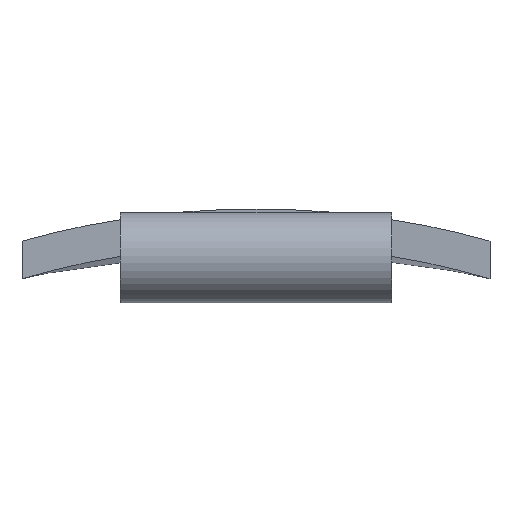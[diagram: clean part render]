
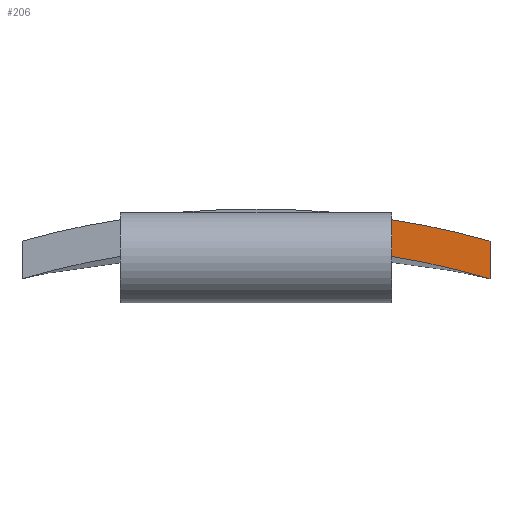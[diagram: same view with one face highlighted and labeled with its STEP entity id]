
A CAD part, top view. The second image highlights one B-rep face of the part: STEP entity #206.
In plain terms, the highlighted planar face has unit normal (0, 0, 1).
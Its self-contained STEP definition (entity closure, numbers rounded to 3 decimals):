
#21 = EDGE_CURVE('',#22,#24,#26,.T.);
#22 = VERTEX_POINT('',#23);
#23 = CARTESIAN_POINT('',(7.5,45.384,106.364));
#24 = VERTEX_POINT('',#25);
#25 = CARTESIAN_POINT('',(7.5,47.41,106.364));
#26 = SURFACE_CURVE('',#27,(#31,#43),.PCURVE_S1.);
#27 = LINE('',#28,#29);
#28 = CARTESIAN_POINT('',(7.5,38.,106.364));
#29 = VECTOR('',#30,1.);
#30 = DIRECTION('',(0.,1.,0.));
#31 = PCURVE('',#32,#37);
#32 = PLANE('',#33);
#33 = AXIS2_PLACEMENT_3D('',#34,#35,#36);
#34 = CARTESIAN_POINT('',(7.5,38.,106.364));
#35 = DIRECTION('',(-1.,0.,0.));
#36 = DIRECTION('',(0.,0.,1.));
#37 = DEFINITIONAL_REPRESENTATION('',(#38),#42);
#38 = LINE('',#39,#40);
#39 = CARTESIAN_POINT('',(0.,0.));
#40 = VECTOR('',#41,1.);
#41 = DIRECTION('',(0.,1.));
#42 = ( GEOMETRIC_REPRESENTATION_CONTEXT(2) 
PARAMETRIC_REPRESENTATION_CONTEXT() REPRESENTATION_CONTEXT('2D SPACE',''
  ) );
#43 = PCURVE('',#44,#49);
#44 = PLANE('',#45);
#45 = AXIS2_PLACEMENT_3D('',#46,#47,#48);
#46 = CARTESIAN_POINT('',(17.5,38.,106.364));
#47 = DIRECTION('',(0.,0.,1.));
#48 = DIRECTION('',(0.,1.,0.));
#49 = DEFINITIONAL_REPRESENTATION('',(#50),#54);
#50 = LINE('',#51,#52);
#51 = CARTESIAN_POINT('',(0.,10.));
#52 = VECTOR('',#53,1.);
#53 = DIRECTION('',(1.,0.));
#54 = ( GEOMETRIC_REPRESENTATION_CONTEXT(2) 
PARAMETRIC_REPRESENTATION_CONTEXT() REPRESENTATION_CONTEXT('2D SPACE',''
  ) );
#72 = CYLINDRICAL_SURFACE('',#73,46.);
#73 = AXIS2_PLACEMENT_3D('',#74,#75,#76);
#74 = CARTESIAN_POINT('',(0.,0.,
    -4.946));
#75 = DIRECTION('',(0.,-0.,-1.));
#76 = DIRECTION('',(0.,1.,0.));
#164 = CYLINDRICAL_SURFACE('',#165,48.);
#165 = AXIS2_PLACEMENT_3D('',#166,#167,#168);
#166 = CARTESIAN_POINT('',(0.,0.,-4.946));
#167 = DIRECTION('',(0.,-0.,-1.));
#168 = DIRECTION('',(0.,1.,0.));
#206 = ADVANCED_FACE('',(#207),#44,.T.);
#207 = FACE_BOUND('',#208,.T.);
#208 = EDGE_LOOP('',(#209,#210,#238,#266));
#209 = ORIENTED_EDGE('',*,*,#21,.F.);
#210 = ORIENTED_EDGE('',*,*,#211,.T.);
#211 = EDGE_CURVE('',#22,#212,#214,.T.);
#212 = VERTEX_POINT('',#213);
#213 = CARTESIAN_POINT('',(12.924,44.147,
    106.364));
#214 = SURFACE_CURVE('',#215,(#220,#231),.PCURVE_S1.);
#215 = CIRCLE('',#216,46.);
#216 = AXIS2_PLACEMENT_3D('',#217,#218,#219);
#217 = CARTESIAN_POINT('',(0.,0.,
    106.364));
#218 = DIRECTION('',(0.,0.,-1.));
#219 = DIRECTION('',(0.,1.,0.));
#220 = PCURVE('',#44,#221);
#221 = DEFINITIONAL_REPRESENTATION('',(#222),#230);
#222 = ( BOUNDED_CURVE() B_SPLINE_CURVE(2,(#223,#224,#225,#226,#227,#228
,#229),.UNSPECIFIED.,.T.,.F.) B_SPLINE_CURVE_WITH_KNOTS((1,2,2,2,2,1),(
    -2.094,0.,2.094,4.189,6.283,
8.378),.UNSPECIFIED.) CURVE() GEOMETRIC_REPRESENTATION_ITEM() 
RATIONAL_B_SPLINE_CURVE((1.,0.5,1.,0.5,1.,0.5,1.)) REPRESENTATION_ITEM(
  '') );
#223 = CARTESIAN_POINT('',(8.,17.5));
#224 = CARTESIAN_POINT('',(8.,-62.174));
#225 = CARTESIAN_POINT('',(-61.,-22.337));
#226 = CARTESIAN_POINT('',(-130.,17.5));
#227 = CARTESIAN_POINT('',(-61.,57.337));
#228 = CARTESIAN_POINT('',(8.,97.174));
#229 = CARTESIAN_POINT('',(8.,17.5));
#230 = ( GEOMETRIC_REPRESENTATION_CONTEXT(2) 
PARAMETRIC_REPRESENTATION_CONTEXT() REPRESENTATION_CONTEXT('2D SPACE',''
  ) );
#231 = PCURVE('',#72,#232);
#232 = DEFINITIONAL_REPRESENTATION('',(#233),#237);
#233 = LINE('',#234,#235);
#234 = CARTESIAN_POINT('',(0.,-111.31));
#235 = VECTOR('',#236,1.);
#236 = DIRECTION('',(1.,-0.));
#237 = ( GEOMETRIC_REPRESENTATION_CONTEXT(2) 
PARAMETRIC_REPRESENTATION_CONTEXT() REPRESENTATION_CONTEXT('2D SPACE',''
  ) );
#238 = ORIENTED_EDGE('',*,*,#239,.F.);
#239 = EDGE_CURVE('',#240,#212,#242,.T.);
#240 = VERTEX_POINT('',#241);
#241 = CARTESIAN_POINT('',(12.924,46.227,
    106.364));
#242 = SURFACE_CURVE('',#243,(#247,#254),.PCURVE_S1.);
#243 = LINE('',#244,#245);
#244 = CARTESIAN_POINT('',(12.924,29.,106.364));
#245 = VECTOR('',#246,1.);
#246 = DIRECTION('',(0.,-1.,0.));
#247 = PCURVE('',#44,#248);
#248 = DEFINITIONAL_REPRESENTATION('',(#249),#253);
#249 = LINE('',#250,#251);
#250 = CARTESIAN_POINT('',(-9.,4.576));
#251 = VECTOR('',#252,1.);
#252 = DIRECTION('',(-1.,0.));
#253 = ( GEOMETRIC_REPRESENTATION_CONTEXT(2) 
PARAMETRIC_REPRESENTATION_CONTEXT() REPRESENTATION_CONTEXT('2D SPACE',''
  ) );
#254 = PCURVE('',#255,#260);
#255 = PLANE('',#256);
#256 = AXIS2_PLACEMENT_3D('',#257,#258,#259);
#257 = CARTESIAN_POINT('',(10.,20.,10.054));
#258 = DIRECTION('',(1.,0.,
    -0.03));
#259 = DIRECTION('',(0.03,0.,
    1.));
#260 = DEFINITIONAL_REPRESENTATION('',(#261),#265);
#261 = LINE('',#262,#263);
#262 = CARTESIAN_POINT('',(96.354,-9.));
#263 = VECTOR('',#264,1.);
#264 = DIRECTION('',(0.,1.));
#265 = ( GEOMETRIC_REPRESENTATION_CONTEXT(2) 
PARAMETRIC_REPRESENTATION_CONTEXT() REPRESENTATION_CONTEXT('2D SPACE',''
  ) );
#266 = ORIENTED_EDGE('',*,*,#267,.F.);
#267 = EDGE_CURVE('',#24,#240,#268,.T.);
#268 = SURFACE_CURVE('',#269,(#274,#285),.PCURVE_S1.);
#269 = CIRCLE('',#270,48.);
#270 = AXIS2_PLACEMENT_3D('',#271,#272,#273);
#271 = CARTESIAN_POINT('',(0.,0.,106.364));
#272 = DIRECTION('',(0.,0.,-1.));
#273 = DIRECTION('',(0.,1.,0.));
#274 = PCURVE('',#44,#275);
#275 = DEFINITIONAL_REPRESENTATION('',(#276),#284);
#276 = ( BOUNDED_CURVE() B_SPLINE_CURVE(2,(#277,#278,#279,#280,#281,#282
,#283),.UNSPECIFIED.,.T.,.F.) B_SPLINE_CURVE_WITH_KNOTS((1,2,2,2,2,1),(
    -2.094,0.,2.094,4.189,6.283,
8.378),.UNSPECIFIED.) CURVE() GEOMETRIC_REPRESENTATION_ITEM() 
RATIONAL_B_SPLINE_CURVE((1.,0.5,1.,0.5,1.,0.5,1.)) REPRESENTATION_ITEM(
  '') );
#277 = CARTESIAN_POINT('',(10.,17.5));
#278 = CARTESIAN_POINT('',(10.,-65.638));
#279 = CARTESIAN_POINT('',(-62.,-24.069));
#280 = CARTESIAN_POINT('',(-134.,17.5));
#281 = CARTESIAN_POINT('',(-62.,59.069));
#282 = CARTESIAN_POINT('',(10.,100.638));
#283 = CARTESIAN_POINT('',(10.,17.5));
#284 = ( GEOMETRIC_REPRESENTATION_CONTEXT(2) 
PARAMETRIC_REPRESENTATION_CONTEXT() REPRESENTATION_CONTEXT('2D SPACE',''
  ) );
#285 = PCURVE('',#164,#286);
#286 = DEFINITIONAL_REPRESENTATION('',(#287),#291);
#287 = LINE('',#288,#289);
#288 = CARTESIAN_POINT('',(-6.283,-111.31));
#289 = VECTOR('',#290,1.);
#290 = DIRECTION('',(1.,-0.));
#291 = ( GEOMETRIC_REPRESENTATION_CONTEXT(2) 
PARAMETRIC_REPRESENTATION_CONTEXT() REPRESENTATION_CONTEXT('2D SPACE',''
  ) );
